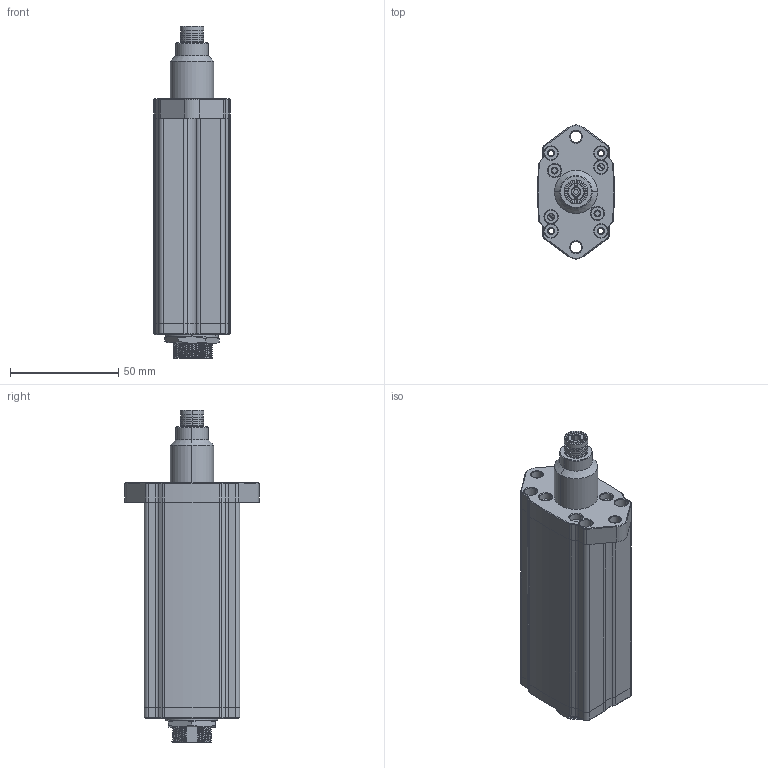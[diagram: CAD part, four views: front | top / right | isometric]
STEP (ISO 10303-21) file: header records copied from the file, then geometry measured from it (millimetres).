
FILE_DESCRIPTION((''),'2;1');
FILE_NAME('FI1003DC-HM_ASM','2025-12-24T14:40:35',('Admin'),(''),'CREO PARAMETRIC BY PTC INC, 2020074','CREO PARAMETRIC BY PTC INC, 2020074','');
FILE_SCHEMA(('CONFIG_CONTROL_DESIGN'));
Length unit declared in the file: millimetre
Products named in the file (11): ADMI45208781OESA_1; ADMI45208781OESA_2; ADMI45208781OESA_3; ADMI45208781OESA_4; ADMI45208781OESA_5; ADMI45208781OESA_6; ADMI45208781OESA_7; ADMI45208781OESA_8; ADMI45208781OESA_ASM; _30W_4_00001; FI1003DC-HM_ASM
Assembly tree (10 placements, depth 3):
  FI1003DC-HM_ASM
    ADMI45208781OESA_ASM
      ADMI45208781OESA_1
      ADMI45208781OESA_2
      ADMI45208781OESA_3
      ADMI45208781OESA_4
      ADMI45208781OESA_5
      ADMI45208781OESA_6
      ADMI45208781OESA_7
      ADMI45208781OESA_8
    _30W_4_00001
Bounding box: 35.5 x 62 x 153.47 mm (x, y, z)
Volume: 98486.6 mm3; surface area: 58852.1 mm2
Topology: 9 solids, 11 shells, 728 faces, 1965 edges, 1281 vertices
Faces by surface type: cylinder 329, plane 220, cone 118, sphere 34, bspline 27
Entity records: 31050 total; most frequent: CARTESIAN_POINT 12354, DIRECTION 3970, ORIENTED_EDGE 3849, EDGE_CURVE 1933, AXIS2_PLACEMENT_3D 1573, VERTEX_POINT 1281, CIRCLE 842, EDGE_LOOP 831
